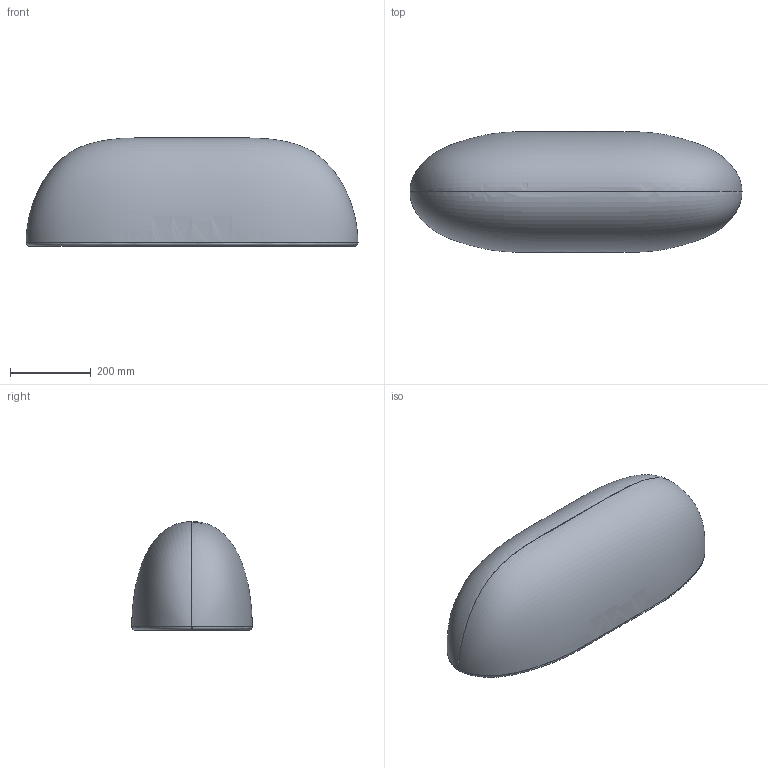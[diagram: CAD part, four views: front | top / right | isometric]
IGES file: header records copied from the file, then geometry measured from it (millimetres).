
Global section: file name: \\.psf\Host\disegni@MacProIntel\Carlo Alberto\Cuscini_imbottito a isola_SEGIS\1001_3d_16_1.igs; native system: Rhinoceros ( Apr  1 2010 ); preprocessor: Trout Lake IGES 012 Apr  1 2010; date: 100507.083204; units: millimetre
Bounding box: 824.87 x 299.95 x 270 mm (x, y, z)
Surface area: 747701.9 mm2 (no closed solid volume)
Topology: 0 solids, 0 shells, 5 faces, 1446 edges, 1483 vertices
Faces by surface type: bspline 5
